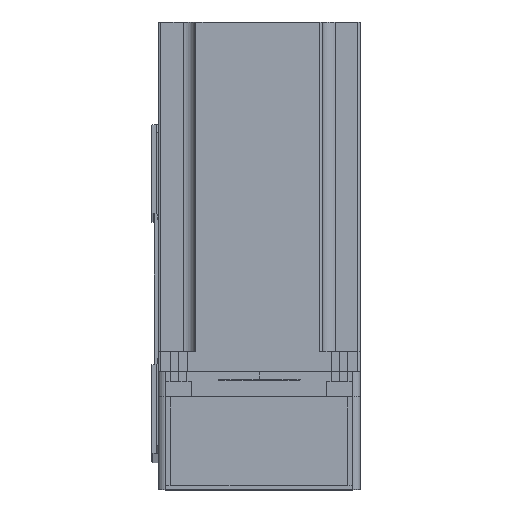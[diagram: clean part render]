
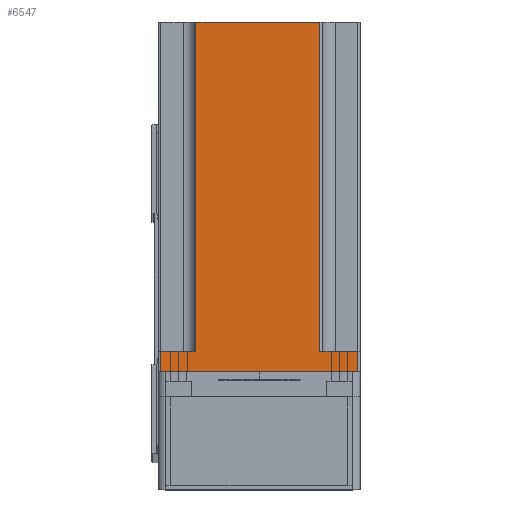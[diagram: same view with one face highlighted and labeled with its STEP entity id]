
A CAD part, top view. The second image highlights one B-rep face of the part: STEP entity #6547.
In plain terms, the highlighted planar face has unit normal (0, 0, 1) as drawn and (-1, 0, 0) by its records, which use the part's own axes.
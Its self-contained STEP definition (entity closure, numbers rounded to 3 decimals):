
#635 = VERTEX_POINT ( 'NONE', #21592 ) ;
#1867 = ORIENTED_EDGE ( 'NONE', *, *, #32627, .T. ) ;
#2245 = VERTEX_POINT ( 'NONE', #10678 ) ;
#3380 = VECTOR ( 'NONE', #28841, 1000. ) ;
#3458 = EDGE_CURVE ( 'NONE', #35878, #48317, #24887, .T. ) ;
#4598 = CARTESIAN_POINT ( 'NONE',  ( -40., -39., 8. ) ) ;
#4614 = EDGE_CURVE ( 'NONE', #29269, #23000, #25535, .T. ) ;
#6414 = ORIENTED_EDGE ( 'NONE', *, *, #43060, .T. ) ;
#6547 = ADVANCED_FACE ( 'NONE', ( #43123 ), #25297, .F. ) ;
#6793 = VECTOR ( 'NONE', #30718, 1000. ) ;
#7504 = CARTESIAN_POINT ( 'NONE',  ( -40., 25., 8. ) ) ;
#8599 = CARTESIAN_POINT ( 'NONE',  ( -40., -39., 0. ) ) ;
#8941 = ORIENTED_EDGE ( 'NONE', *, *, #3458, .T. ) ;
#10617 = EDGE_CURVE ( 'NONE', #45007, #48317, #51830, .T. ) ;
#10678 = CARTESIAN_POINT ( 'NONE',  ( -40., 39., 0. ) ) ;
#12141 = VECTOR ( 'NONE', #13987, 1000. ) ;
#12549 = VECTOR ( 'NONE', #51477, 1000. ) ;
#12607 = ORIENTED_EDGE ( 'NONE', *, *, #50716, .T. ) ;
#12684 = VECTOR ( 'NONE', #37576, 1000. ) ;
#13290 = VECTOR ( 'NONE', #13891, 1000. ) ;
#13891 = DIRECTION ( 'NONE',  ( 0., 0., -1. ) ) ;
#13899 = CARTESIAN_POINT ( 'NONE',  ( -40., -39., 138.3 ) ) ;
#13987 = DIRECTION ( 'NONE',  ( 0., 0., 1. ) ) ;
#14104 = CARTESIAN_POINT ( 'NONE',  ( -40., 39., 138.3 ) ) ;
#14215 = ORIENTED_EDGE ( 'NONE', *, *, #10617, .F. ) ;
#16378 = AXIS2_PLACEMENT_3D ( 'NONE', #22223, #21322, #21247 ) ;
#21247 = DIRECTION ( 'NONE',  ( 0., 0., -1. ) ) ;
#21322 = DIRECTION ( 'NONE',  ( 1., 0., 0. ) ) ;
#21592 = CARTESIAN_POINT ( 'NONE',  ( -40., 39., 8. ) ) ;
#21855 = ORIENTED_EDGE ( 'NONE', *, *, #48684, .F. ) ;
#22223 = CARTESIAN_POINT ( 'NONE',  ( -40., -40., 138.3 ) ) ;
#23000 = VERTEX_POINT ( 'NONE', #43883 ) ;
#24071 = CARTESIAN_POINT ( 'NONE',  ( -40., -24., 138.3 ) ) ;
#24853 = VECTOR ( 'NONE', #56257, 1000. ) ;
#24887 = LINE ( 'NONE', #13899, #12141 ) ;
#25289 = LINE ( 'NONE', #32166, #12549 ) ;
#25297 = PLANE ( 'NONE',  #16378 ) ;
#25421 = LINE ( 'NONE', #38512, #12684 ) ;
#25535 = LINE ( 'NONE', #31138, #6793 ) ;
#26373 = CARTESIAN_POINT ( 'NONE',  ( -40., 25., 138.3 ) ) ;
#28100 = ORIENTED_EDGE ( 'NONE', *, *, #4614, .F. ) ;
#28841 = DIRECTION ( 'NONE',  ( 0., 0., 1. ) ) ;
#29269 = VERTEX_POINT ( 'NONE', #26373 ) ;
#30718 = DIRECTION ( 'NONE',  ( 0., -1., 0. ) ) ;
#31138 = CARTESIAN_POINT ( 'NONE',  ( -40., -40., 138.3 ) ) ;
#31795 = EDGE_CURVE ( 'NONE', #51923, #635, #25421, .T. ) ;
#32166 = CARTESIAN_POINT ( 'NONE',  ( -40., -40., 0. ) ) ;
#32627 = EDGE_CURVE ( 'NONE', #635, #2245, #50055, .T. ) ;
#34870 = CARTESIAN_POINT ( 'NONE',  ( -40., 25., 8. ) ) ;
#35878 = VERTEX_POINT ( 'NONE', #8599 ) ;
#37576 = DIRECTION ( 'NONE',  ( 0., 1., 0. ) ) ;
#37727 = VECTOR ( 'NONE', #50657, 1000. ) ;
#37861 = ORIENTED_EDGE ( 'NONE', *, *, #31795, .T. ) ;
#38512 = CARTESIAN_POINT ( 'NONE',  ( -40., 40., 8. ) ) ;
#38557 = CARTESIAN_POINT ( 'NONE',  ( -40., -24., 8. ) ) ;
#41594 = LINE ( 'NONE', #24071, #3380 ) ;
#43060 = EDGE_CURVE ( 'NONE', #2245, #35878, #25289, .T. ) ;
#43123 = FACE_OUTER_BOUND ( 'NONE', #45931, .T. ) ;
#43883 = CARTESIAN_POINT ( 'NONE',  ( -40., -24., 138.3 ) ) ;
#45007 = VERTEX_POINT ( 'NONE', #38557 ) ;
#45931 = EDGE_LOOP ( 'NONE', ( #14215, #12607, #28100, #21855, #37861, #1867, #6414, #8941 ) ) ;
#48317 = VERTEX_POINT ( 'NONE', #4598 ) ;
#48684 = EDGE_CURVE ( 'NONE', #51923, #29269, #50480, .T. ) ;
#50055 = LINE ( 'NONE', #14104, #13290 ) ;
#50480 = LINE ( 'NONE', #7504, #37727 ) ;
#50657 = DIRECTION ( 'NONE',  ( 0., 0., 1. ) ) ;
#50716 = EDGE_CURVE ( 'NONE', #45007, #23000, #41594, .T. ) ;
#51477 = DIRECTION ( 'NONE',  ( 0., -1., 0. ) ) ;
#51830 = LINE ( 'NONE', #56957, #24853 ) ;
#51923 = VERTEX_POINT ( 'NONE', #34870 ) ;
#56257 = DIRECTION ( 'NONE',  ( 0., -1., 0. ) ) ;
#56957 = CARTESIAN_POINT ( 'NONE',  ( -40., -40., 8. ) ) ;
